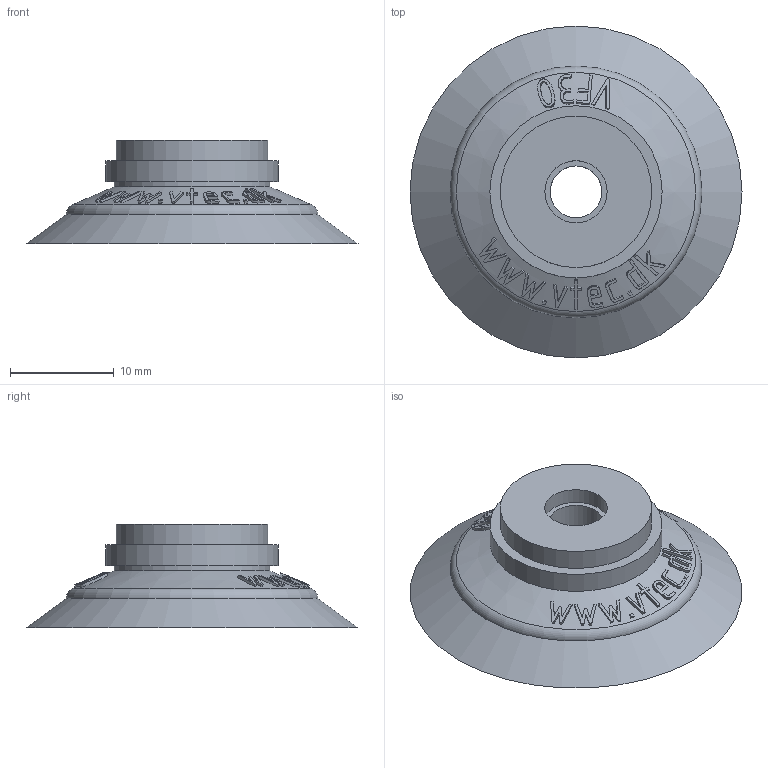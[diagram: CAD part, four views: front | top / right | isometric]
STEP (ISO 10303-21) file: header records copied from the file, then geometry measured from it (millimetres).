
FILE_DESCRIPTION( ( 'Unknown' ), '1' );
FILE_NAME( 'C:/Documents and Settings/owner/官帕 拳搁/MISUMI/PAD/VF/VF30-N.stp', 'Unknown', ( 'Unknown' ), ( 'Unknown' ), 'XStep 1.0', 'Unknown', ' ' );
FILE_SCHEMA( ( 'automotive_design' ) );
Length unit declared in the file: millimetre
Products named in the file (2): Assem1; VF30
Bounding box: 32 x 32 x 10 mm (x, y, z)
Volume: 4430.9 mm3; surface area: 4802 mm2
Topology: 2 solids, 2 shells, 382 faces, 960 edges, 642 vertices
Faces by surface type: plane 172, bspline 110, cone 42, extrusion 28, cylinder 28, torus 2
Full cylindrical faces by diameter (mm): 5 x2, 6 x2, 7 x2, 14.6 x2, 15 x2, 16.6 x2
Entity records: 11461 total; most frequent: CARTESIAN_POINT 6194, ORIENTED_EDGE 918, EDGE_CURVE 459, DIRECTION 423, B_SPLINE_CURVE_WITH_KNOTS 347, VERTEX_POINT 313, EDGE_LOOP 236, FACE_OUTER_BOUND 200
